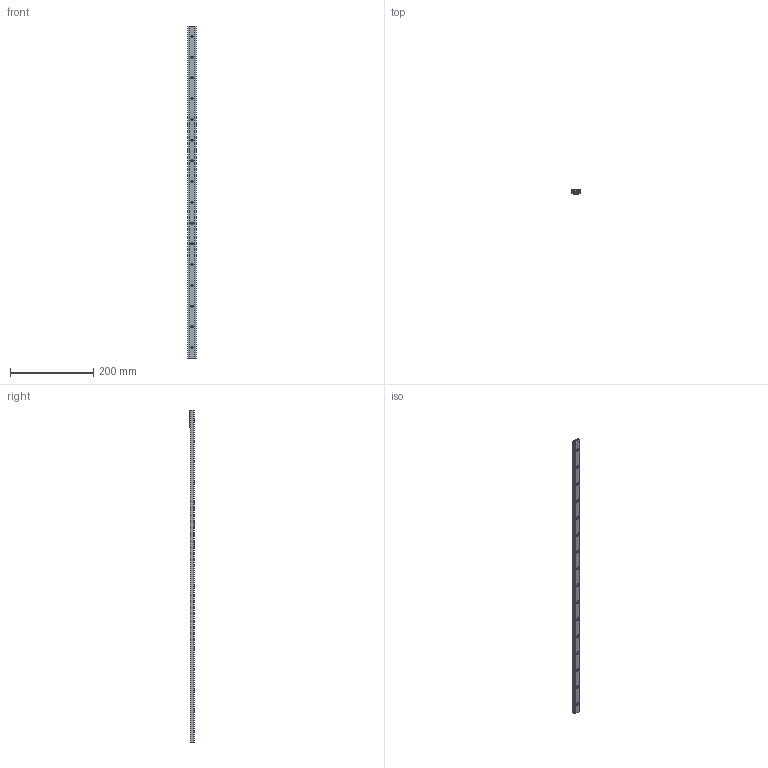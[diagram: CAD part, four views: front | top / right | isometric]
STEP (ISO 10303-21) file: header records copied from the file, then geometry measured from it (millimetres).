
FILE_DESCRIPTION (( 'STEP AP203' ), '1' );
FILE_NAME ('mlg-20c_mlg20-800_0.step', '2023-07-21T01:40:22', ( '' ), ( '' ), 'SwSTEP 2.0', 'SolidWorks 2022', '' );
FILE_SCHEMA (( 'CONFIG_CONTROL_DESIGN' ));
Length unit declared in the file: millimetre
Products named in the file (3): mlg-20c_mlg20-800_0; mlg20-800_0_L=400; mlg-20c_0
Assembly tree (2 placements, depth 2):
  mlg-20c_mlg20-800_0
    mlg20-800_0_L=400
    mlg-20c_0
Bounding box: 20.15 x 10.5 x 800 mm (x, y, z)
Volume: 55655.6 mm3; surface area: 60898.6 mm2
Topology: 2 solids, 2 shells, 481 faces, 1217 edges, 806 vertices
Faces by surface type: plane 268, cylinder 189, torus 24
Entity records: 14970 total; most frequent: DIRECTION 2623, CARTESIAN_POINT 2509, ORIENTED_EDGE 2434, EDGE_CURVE 1217, AXIS2_PLACEMENT_3D 920, VERTEX_POINT 806, VECTOR 783, LINE 783
